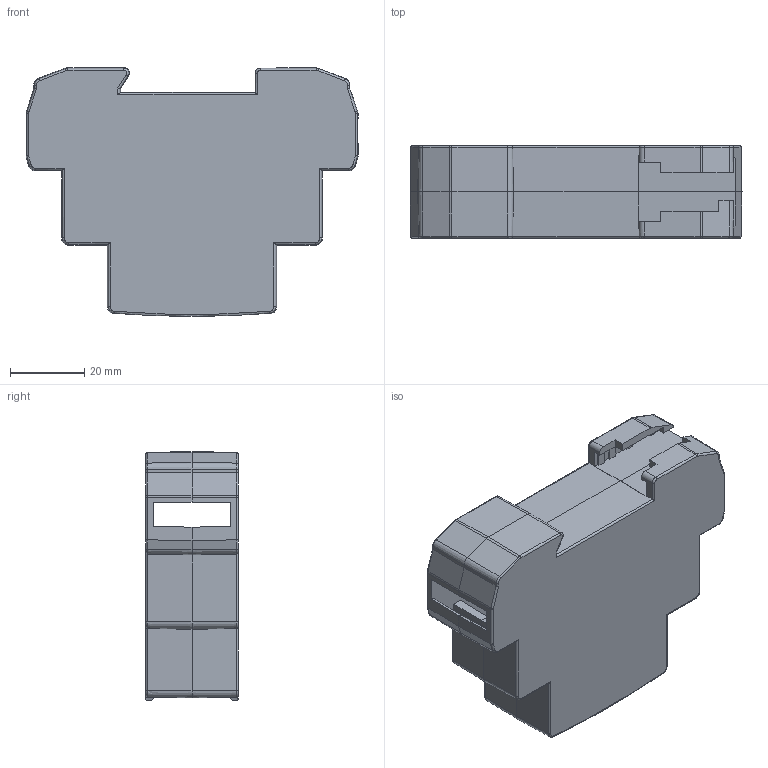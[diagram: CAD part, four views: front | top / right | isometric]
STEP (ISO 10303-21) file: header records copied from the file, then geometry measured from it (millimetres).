
FILE_DESCRIPTION (( 'STEP AP203' ), '1' );
FILE_NAME ('PT101.STEP', '2018-08-29T11:39:13', ( '' ), ( '' ), 'SwSTEP 2.0', 'SolidWorks 2018', '' );
FILE_SCHEMA (( 'CONFIG_CONTROL_DESIGN' ));
Length unit declared in the file: millimetre
Products named in the file (1): PT101
Bounding box: 89.7 x 25 x 67.21 mm (x, y, z)
Volume: 26609 mm3; surface area: 31629.2 mm2
Topology: 2 solids, 2 shells, 440 faces, 1193 edges, 764 vertices
Faces by surface type: plane 255, cone 79, cylinder 68, torus 26, bspline 12
Entity records: 14241 total; most frequent: CARTESIAN_POINT 3078, ORIENTED_EDGE 2386, DIRECTION 2240, EDGE_CURVE 1193, LINE 860, VECTOR 860, VERTEX_POINT 764, AXIS2_PLACEMENT_3D 690
